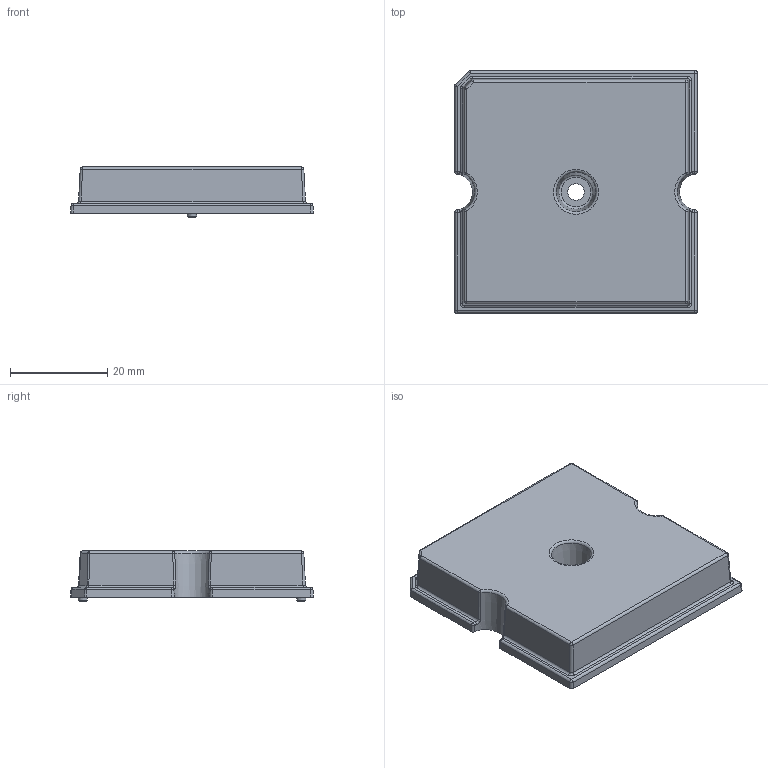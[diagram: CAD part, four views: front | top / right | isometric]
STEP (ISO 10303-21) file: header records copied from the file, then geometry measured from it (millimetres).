
FILE_DESCRIPTION(/* description */ ('Unknown'),/* implementation_level */ '2;1');
FILE_NAME(/* name */ '023-W0E-02',/* time_stamp */ '2023-11-14T17:24:26+01:00',/* author */ ('Unknown'),/* organization */ ('Unknown'),/* preprocessor_version */ 'ST-DEVELOPER v16.7',/* originating_system */ 'Solid Edge',/* authorisation */ 'Unknown');
FILE_SCHEMA (('AUTOMOTIVE_DESIGN {1 0 10303 214 3 1 1}'));
Length unit declared in the file: millimetre
Products named in the file (1): 023-W0E-02
Bounding box: 50 x 50 x 10.3 mm (x, y, z)
Volume: 14287.4 mm3; surface area: 8816.5 mm2
Topology: 1 solids, 1 shells, 389 faces, 983 edges, 598 vertices
Faces by surface type: plane 176, cylinder 80, bspline 45, torus 32, cone 29, sphere 27
Full cylindrical faces by diameter (mm): 8.386 x4
Entity records: 12170 total; most frequent: CARTESIAN_POINT 3754, ORIENTED_EDGE 1814, DIRECTION 1546, EDGE_CURVE 907, VERTEX_POINT 580, AXIS2_PLACEMENT_3D 580, EDGE_LOOP 451, FACE_BOUND 451
